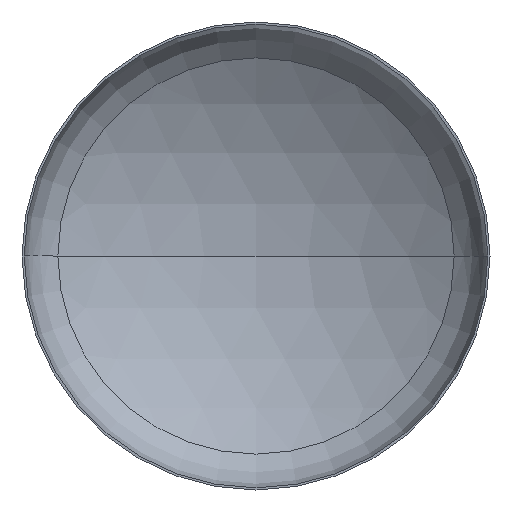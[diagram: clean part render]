
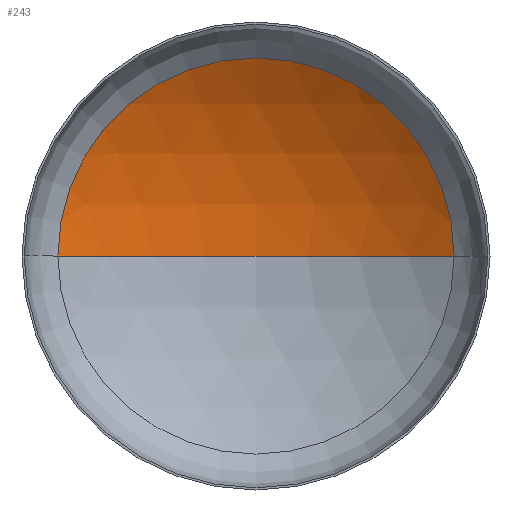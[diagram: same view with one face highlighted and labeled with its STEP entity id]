
A CAD part, front view. The second image highlights one B-rep face of the part: STEP entity #243.
In plain terms, the highlighted spherical face has radius 1360 mm.
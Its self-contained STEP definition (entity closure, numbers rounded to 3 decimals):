
#7 = CARTESIAN_POINT ( 'NONE',  ( 0., -908.422, 0. ) ) ;
#11 = DIRECTION ( 'NONE',  ( 0., 0., -1. ) ) ;
#18 = EDGE_LOOP ( 'NONE', ( #51, #44, #160 ) ) ;
#24 = AXIS2_PLACEMENT_3D ( 'NONE', #175, #275, #208 ) ;
#28 = AXIS2_PLACEMENT_3D ( 'NONE', #329, #277, #75 ) ;
#30 = VERTEX_POINT ( 'NONE', #259 ) ;
#44 = ORIENTED_EDGE ( 'NONE', *, *, #348, .T. ) ;
#51 = ORIENTED_EDGE ( 'NONE', *, *, #393, .F. ) ;
#67 = AXIS2_PLACEMENT_3D ( 'NONE', #7, #11, #205 ) ;
#75 = DIRECTION ( 'NONE',  ( 1., 0., 0. ) ) ;
#90 = DIRECTION ( 'NONE',  ( 0., 0., 1. ) ) ;
#135 = VERTEX_POINT ( 'NONE', #316 ) ;
#137 = VERTEX_POINT ( 'NONE', #213 ) ;
#144 = CIRCLE ( 'NONE', #174, 1360. ) ;
#160 = ORIENTED_EDGE ( 'NONE', *, *, #345, .T. ) ;
#174 = AXIS2_PLACEMENT_3D ( 'NONE', #357, #90, #305 ) ;
#175 = CARTESIAN_POINT ( 'NONE',  ( 0., -908.422, 0. ) ) ;
#205 = DIRECTION ( 'NONE',  ( -1., 0., 0. ) ) ;
#208 = DIRECTION ( 'NONE',  ( -1., 0., 0. ) ) ;
#213 = CARTESIAN_POINT ( 'NONE',  ( 0., 451.578, 0. ) ) ;
#243 = ADVANCED_FACE ( 'NONE', ( #328 ), #381, .F. ) ;
#245 = CIRCLE ( 'NONE', #24, 1360. ) ;
#259 = CARTESIAN_POINT ( 'NONE',  ( -719.564, 245.627, 0. ) ) ;
#275 = DIRECTION ( 'NONE',  ( 0., 0., -1. ) ) ;
#277 = DIRECTION ( 'NONE',  ( 0., -1., 0. ) ) ;
#305 = DIRECTION ( 'NONE',  ( 1., 0., 0. ) ) ;
#316 = CARTESIAN_POINT ( 'NONE',  ( 719.564, 245.627, 0. ) ) ;
#328 = FACE_OUTER_BOUND ( 'NONE', #18, .T. ) ;
#329 = CARTESIAN_POINT ( 'NONE',  ( 0., 245.627, 0. ) ) ;
#345 = EDGE_CURVE ( 'NONE', #135, #30, #367, .T. ) ;
#348 = EDGE_CURVE ( 'NONE', #137, #135, #245, .T. ) ;
#357 = CARTESIAN_POINT ( 'NONE',  ( 0., -908.422, 0. ) ) ;
#367 = CIRCLE ( 'NONE', #28, 719.564 ) ;
#381 = SPHERICAL_SURFACE ( 'NONE', #67, 1360. ) ;
#393 = EDGE_CURVE ( 'NONE', #137, #30, #144, .T. ) ;
